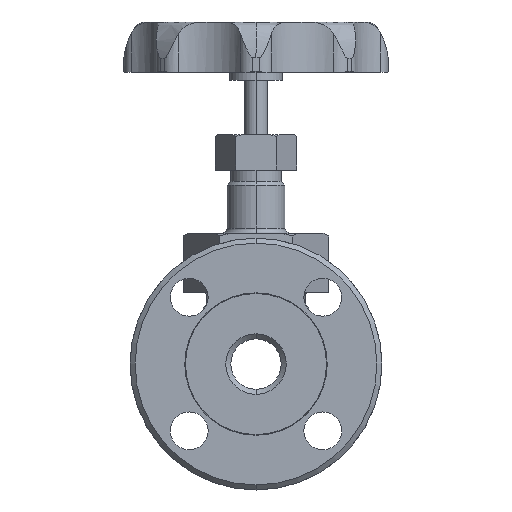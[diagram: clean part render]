
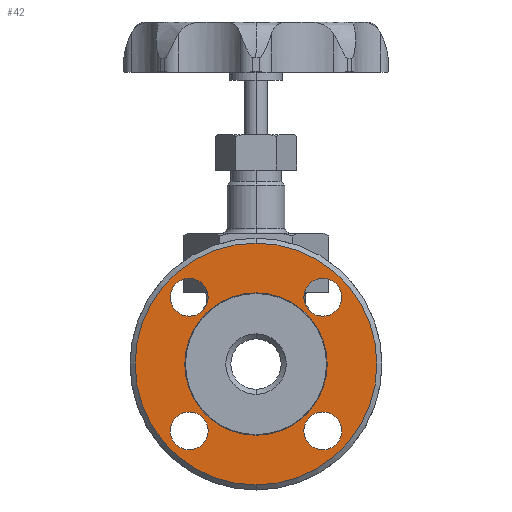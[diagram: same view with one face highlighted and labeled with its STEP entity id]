
A CAD part, left-side view. The second image highlights one B-rep face of the part: STEP entity #42.
In plain terms, the highlighted planar face has unit normal (-1, 0, 0).
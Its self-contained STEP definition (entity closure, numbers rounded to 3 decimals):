
#42=ADVANCED_FACE('',(#296,#297,#298,#299,#300,#301),#295,.F.);
#295=PLANE('',#2680);
#296=FACE_OUTER_BOUND('',#2681,.T.);
#297=FACE_BOUND('',#2682,.T.);
#298=FACE_BOUND('',#2683,.T.);
#299=FACE_BOUND('',#2684,.T.);
#300=FACE_BOUND('',#2685,.T.);
#301=FACE_BOUND('',#2686,.T.);
#2677=CARTESIAN_POINT('',(-59.,-93.138,58.));
#2678=DIRECTION('',(1.,0.,0.));
#2679=DIRECTION('',(0.,0.,-1.));
#2680=AXIS2_PLACEMENT_3D('',#2677,#2678,#2679);
#2681=EDGE_LOOP('',(#4430,#4431));
#2682=EDGE_LOOP('',(#4432,#4433));
#2683=EDGE_LOOP('',(#4434,#4435));
#2684=EDGE_LOOP('',(#4436,#4437));
#2685=EDGE_LOOP('',(#4438,#4439));
#2686=EDGE_LOOP('',(#4440,#4441));
#4430=ORIENTED_EDGE('',*,*,#5798,.T.);
#4431=ORIENTED_EDGE('',*,*,#5799,.T.);
#4432=ORIENTED_EDGE('',*,*,#5800,.T.);
#4433=ORIENTED_EDGE('',*,*,#5801,.T.);
#4434=ORIENTED_EDGE('',*,*,#5802,.F.);
#4435=ORIENTED_EDGE('',*,*,#5803,.F.);
#4436=ORIENTED_EDGE('',*,*,#5804,.T.);
#4437=ORIENTED_EDGE('',*,*,#5805,.T.);
#4438=ORIENTED_EDGE('',*,*,#5806,.T.);
#4439=ORIENTED_EDGE('',*,*,#5807,.T.);
#4440=ORIENTED_EDGE('',*,*,#5808,.T.);
#4441=ORIENTED_EDGE('',*,*,#5809,.T.);
#5798=EDGE_CURVE('',#6542,#6543,#6544,.T.);
#5799=EDGE_CURVE('',#6543,#6542,#6550,.T.);
#5800=EDGE_CURVE('',#6556,#6557,#6558,.T.);
#5801=EDGE_CURVE('',#6557,#6556,#6564,.T.);
#5802=EDGE_CURVE('',#6570,#6571,#6572,.T.);
#5803=EDGE_CURVE('',#6571,#6570,#6578,.T.);
#5804=EDGE_CURVE('',#6584,#6585,#6586,.T.);
#5805=EDGE_CURVE('',#6585,#6584,#6592,.T.);
#5806=EDGE_CURVE('',#6598,#6599,#6600,.T.);
#5807=EDGE_CURVE('',#6599,#6598,#6606,.T.);
#5808=EDGE_CURVE('',#6612,#6613,#6614,.T.);
#5809=EDGE_CURVE('',#6613,#6612,#6620,.T.);
#6542=VERTEX_POINT('',#11124);
#6543=VERTEX_POINT('',#11125);
#6544=CIRCLE('',#11129,48.);
#6550=CIRCLE('',#11133,48.);
#6556=VERTEX_POINT('',#11134);
#6557=VERTEX_POINT('',#11135);
#6558=CIRCLE('',#11139,7.5);
#6564=CIRCLE('',#11143,7.5);
#6570=VERTEX_POINT('',#11144);
#6571=VERTEX_POINT('',#11145);
#6572=CIRCLE('',#11149,28.268);
#6578=CIRCLE('',#11153,28.268);
#6584=VERTEX_POINT('',#11154);
#6585=VERTEX_POINT('',#11155);
#6586=CIRCLE('',#11159,7.5);
#6592=CIRCLE('',#11163,7.5);
#6598=VERTEX_POINT('',#11164);
#6599=VERTEX_POINT('',#11165);
#6600=CIRCLE('',#11169,7.5);
#6606=CIRCLE('',#11173,7.5);
#6612=VERTEX_POINT('',#11174);
#6613=VERTEX_POINT('',#11175);
#6614=CIRCLE('',#11179,7.5);
#6620=CIRCLE('',#11183,7.5);
#11124=CARTESIAN_POINT('',(-59.,0.,48.));
#11125=CARTESIAN_POINT('',(-59.,0.,-48.));
#11126=CARTESIAN_POINT('',(-59.,0.,0.));
#11127=DIRECTION('',(-1.,0.,0.));
#11128=DIRECTION('',(0.,0.,1.));
#11129=AXIS2_PLACEMENT_3D('',#11126,#11127,#11128);
#11130=CARTESIAN_POINT('',(-59.,0.,0.));
#11131=DIRECTION('',(-1.,0.,0.));
#11132=DIRECTION('',(0.,0.,1.));
#11133=AXIS2_PLACEMENT_3D('',#11130,#11131,#11132);
#11134=CARTESIAN_POINT('',(-59.,26.517,34.017));
#11135=CARTESIAN_POINT('',(-59.,26.517,19.017));
#11136=CARTESIAN_POINT('',(-59.,26.517,26.517));
#11137=DIRECTION('',(1.,0.,0.));
#11138=DIRECTION('',(0.,0.,1.));
#11139=AXIS2_PLACEMENT_3D('',#11136,#11137,#11138);
#11140=CARTESIAN_POINT('',(-59.,26.517,26.517));
#11141=DIRECTION('',(1.,0.,0.));
#11142=DIRECTION('',(0.,0.,1.));
#11143=AXIS2_PLACEMENT_3D('',#11140,#11141,#11142);
#11144=CARTESIAN_POINT('',(-59.,0.,-28.268));
#11145=CARTESIAN_POINT('',(-59.,0.,28.268));
#11146=CARTESIAN_POINT('',(-59.,0.,0.));
#11147=DIRECTION('',(-1.,0.,0.));
#11148=DIRECTION('',(0.,0.,1.));
#11149=AXIS2_PLACEMENT_3D('',#11146,#11147,#11148);
#11150=CARTESIAN_POINT('',(-59.,0.,0.));
#11151=DIRECTION('',(-1.,0.,0.));
#11152=DIRECTION('',(0.,0.,1.));
#11153=AXIS2_PLACEMENT_3D('',#11150,#11151,#11152);
#11154=CARTESIAN_POINT('',(-59.,-26.517,-19.017));
#11155=CARTESIAN_POINT('',(-59.,-26.517,-34.017));
#11156=CARTESIAN_POINT('',(-59.,-26.517,-26.517));
#11157=DIRECTION('',(1.,0.,0.));
#11158=DIRECTION('',(0.,0.,1.));
#11159=AXIS2_PLACEMENT_3D('',#11156,#11157,#11158);
#11160=CARTESIAN_POINT('',(-59.,-26.517,-26.517));
#11161=DIRECTION('',(1.,0.,0.));
#11162=DIRECTION('',(0.,0.,1.));
#11163=AXIS2_PLACEMENT_3D('',#11160,#11161,#11162);
#11164=CARTESIAN_POINT('',(-59.,26.517,-19.017));
#11165=CARTESIAN_POINT('',(-59.,26.517,-34.017));
#11166=CARTESIAN_POINT('',(-59.,26.517,-26.517));
#11167=DIRECTION('',(1.,0.,0.));
#11168=DIRECTION('',(0.,0.,1.));
#11169=AXIS2_PLACEMENT_3D('',#11166,#11167,#11168);
#11170=CARTESIAN_POINT('',(-59.,26.517,-26.517));
#11171=DIRECTION('',(1.,0.,0.));
#11172=DIRECTION('',(0.,0.,1.));
#11173=AXIS2_PLACEMENT_3D('',#11170,#11171,#11172);
#11174=CARTESIAN_POINT('',(-59.,-26.517,34.017));
#11175=CARTESIAN_POINT('',(-59.,-26.517,19.017));
#11176=CARTESIAN_POINT('',(-59.,-26.517,26.517));
#11177=DIRECTION('',(1.,0.,0.));
#11178=DIRECTION('',(0.,0.,1.));
#11179=AXIS2_PLACEMENT_3D('',#11176,#11177,#11178);
#11180=CARTESIAN_POINT('',(-59.,-26.517,26.517));
#11181=DIRECTION('',(1.,0.,0.));
#11182=DIRECTION('',(0.,0.,1.));
#11183=AXIS2_PLACEMENT_3D('',#11180,#11181,#11182);
